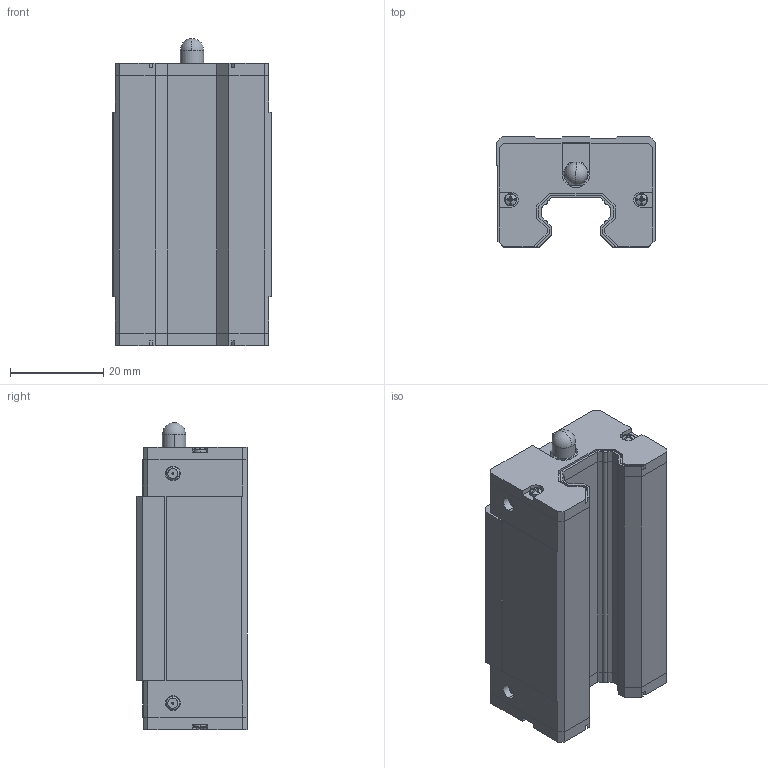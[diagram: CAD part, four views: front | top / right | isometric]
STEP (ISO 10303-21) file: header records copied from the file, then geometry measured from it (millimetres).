
FILE_DESCRIPTION (( 'STEP AP214' ), '1' );
FILE_NAME ('HGH15CA.STEP', '2026-10-13T09:26:14', ( 'BOSS' ), ( '' ), 'SwSTEP 2.0', 'SolidWorks 2026', '' );
FILE_SCHEMA (( 'AUTOMOTIVE_DESIGN' ));
Length unit declared in the file: millimetre
Products named in the file (1): HGH15CA
Bounding box: 34 x 23.6 x 65.8 mm (x, y, z)
Volume: 37757.1 mm3; surface area: 12992.9 mm2
Topology: 4 solids, 4 shells, 665 faces, 1807 edges, 1189 vertices
Faces by surface type: plane 397, cylinder 124, bspline 103, torus 16, cone 15, sphere 10
Entity records: 41180 total; most frequent: CARTESIAN_POINT 20178, ORIENTED_EDGE 3594, DIRECTION 2848, EDGE_CURVE 1797, VECTOR 1198, LINE 1198, VERTEX_POINT 1189, AXIS2_PLACEMENT_3D 825
